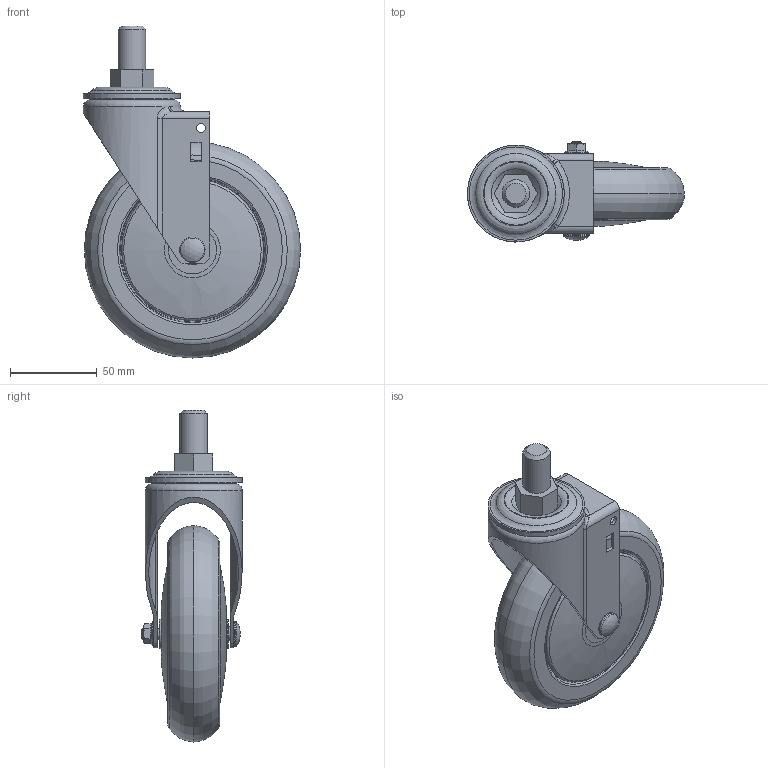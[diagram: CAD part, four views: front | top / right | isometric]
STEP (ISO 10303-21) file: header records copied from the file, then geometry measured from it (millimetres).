
FILE_DESCRIPTION(/* description */ (''),/* implementation_level */ '2;1');
FILE_NAME(/* name */ 'E:\홈피용도면\\X2\C2E0ADDCD648D398C774C9C0C6A9B3C4BA74\X0\\무소음캐스터\20160225-\X2\BB34C18CC74CCE90C2A4D130\X0\\GL-125-ASS.stp',/* time_stamp */ '2016-02-25T21:49:20+09:00',/* author */ ('장용하'),/* organization */ (''),/* preprocessor_version */ 'ST-DEVELOPER v15.6',/* originating_system */ 'Autodesk Inventor 2015',/* authorisation */ '');
FILE_SCHEMA (('AUTOMOTIVE_DESIGN { 1 0 10303 214 3 1 1 }'));
Length unit declared in the file: millimetre
Products named in the file (1): GL-125-ASS
Bounding box: 125.5 x 58 x 191.9 mm (x, y, z)
Volume: 302269.1 mm3; surface area: 99359.4 mm2
Topology: 2 solids, 2 shells, 251 faces, 537 edges, 332 vertices
Faces by surface type: plane 82, torus 71, cone 41, cylinder 32, bspline 24, sphere 1
Full cylindrical faces by diameter (mm): 5.2 x2, 6 x2, 6.2 x1, 7 x1, 8 x1, 11 x1, 11.2 x1, 14 x1, 14.6 x1, 15.875 x1, 22 x2, 24.645 x1, 41 x1, 56 x1
Entity records: 7714 total; most frequent: CARTESIAN_POINT 2807, DIRECTION 1038, ORIENTED_EDGE 826, AXIS2_PLACEMENT_3D 470, EDGE_LOOP 424, EDGE_CURVE 413, VERTEX_POINT 325, FACE_OUTER_BOUND 251
